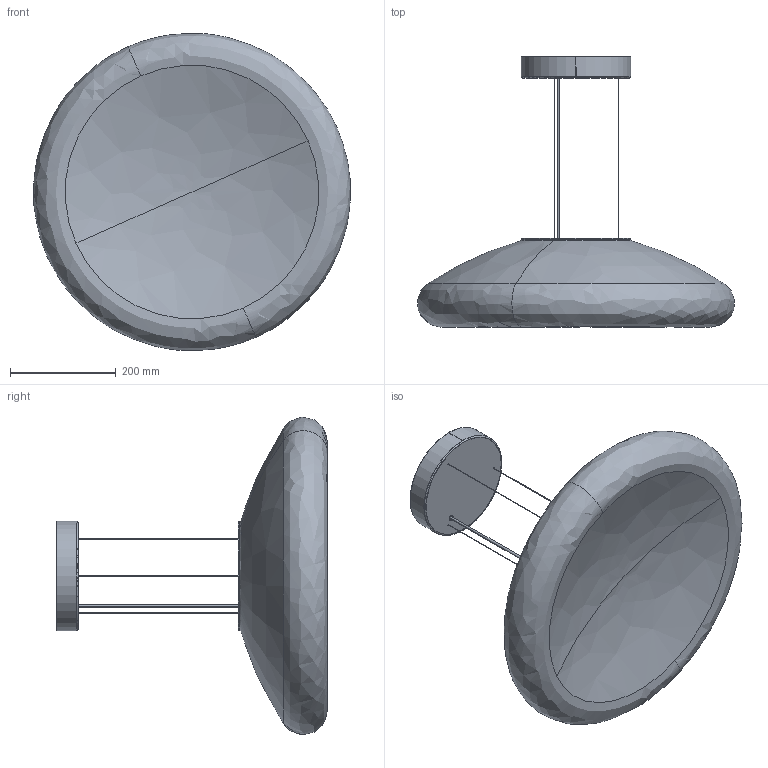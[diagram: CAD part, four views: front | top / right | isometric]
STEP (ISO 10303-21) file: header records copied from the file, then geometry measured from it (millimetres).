
FILE_DESCRIPTION (( 'STEP AP203' ), '1' );
FILE_NAME ('KEYRA_60S_STEP.STEP', '2016-01-19T10:31:53', ( 'admin' ), ( '' ), 'SwSTEP 2.0', 'SolidWorks 2015', '' );
FILE_SCHEMA (( 'CONFIG_CONTROL_DESIGN' ));
Length unit declared in the file: millimetre
Products named in the file (2): KEYRA_60S_STEP
Bounding box: 598.94 x 510.48 x 599.48 mm (x, y, z)
Volume: 5347057.8 mm3; surface area: 1581384.1 mm2
Topology: 9 solids, 9 shells, 253 faces, 605 edges, 387 vertices
Faces by surface type: cylinder 162, plane 49, cone 22, bspline 20
Entity records: 8948 total; most frequent: CARTESIAN_POINT 2649, DIRECTION 1391, ORIENTED_EDGE 1190, EDGE_CURVE 595, AXIS2_PLACEMENT_3D 591, VERTEX_POINT 387, CIRCLE 356, EDGE_LOOP 352
